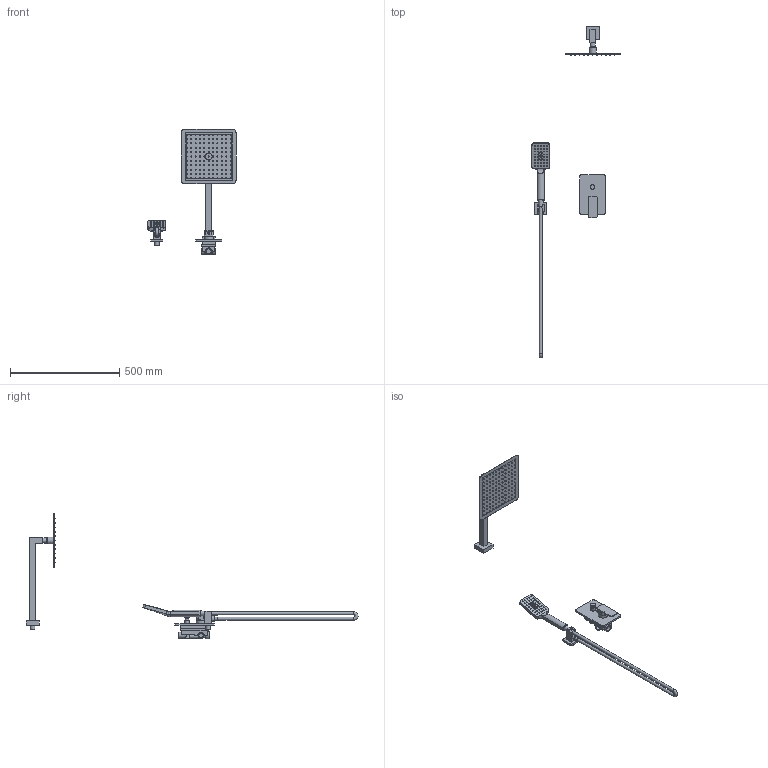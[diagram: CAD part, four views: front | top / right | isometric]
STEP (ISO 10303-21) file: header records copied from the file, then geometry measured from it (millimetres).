
FILE_DESCRIPTION(/* description */ ('Zestaw Gold'),/* implementation_level */ '2;1');
FILE_NAME(/* name */ 'C:\Nextcloud\02_biblioteki_cad\Valvex\Projekt\PROJECTS\Eksport\ETAP 1\ponowny eksport\Zestaw Gold\Zestaw Gold.stp',/* time_stamp */ '2021-07-16T13:57:49+02:00',/* author */ ('Cadventure'),/* organization */ (''),/* preprocessor_version */ 'ST-DEVELOPER v18.1',/* originating_system */ 'Autodesk Inventor 2020',/* authorisation */ '');
FILE_SCHEMA (('AUTOMOTIVE_DESIGN { 1 0 10303 214 3 1 1 }'));
Length unit declared in the file: millimetre
Products named in the file (8): Zestaw Gold; 2455850; 2455570; 2455580_inne_wymiary; 2455590-inny carre; 2454980; 2455590_dysze_deszczownica; 2455850_dysze_sluchawka
Assembly tree (7 placements, depth 2):
  Zestaw Gold
    2455850
    2455570
    2455580_inne_wymiary
    2455590-inny carre
    2454980
    2455590_dysze_deszczownica
    2455850_dysze_sluchawka
Bounding box: 402.5 x 1517.75 x 574.5 mm (x, y, z)
Volume: 1797652.1 mm3; surface area: 430605.1 mm2
Topology: 175 solids, 175 shells, 787 faces, 1543 edges, 1130 vertices
Faces by surface type: plane 588, cone 133, cylinder 52, bspline 10, torus 3, sphere 1
Full cylindrical faces by diameter (mm): 6 x2, 9 x1, 12.7 x2, 14 x2, 15 x1, 16.5 x1, 18 x1, 19 x3, 21 x5, 23 x1, 24 x1, 25 x1, 28 x4, 31 x1, 32 x1, 42 x1
Entity records: 22141 total; most frequent: CARTESIAN_POINT 4026, DIRECTION 3795, ORIENTED_EDGE 3084, EDGE_CURVE 1542, AXIS2_PLACEMENT_3D 1488, VERTEX_POINT 1130, STYLED_ITEM 832, LINE 819
